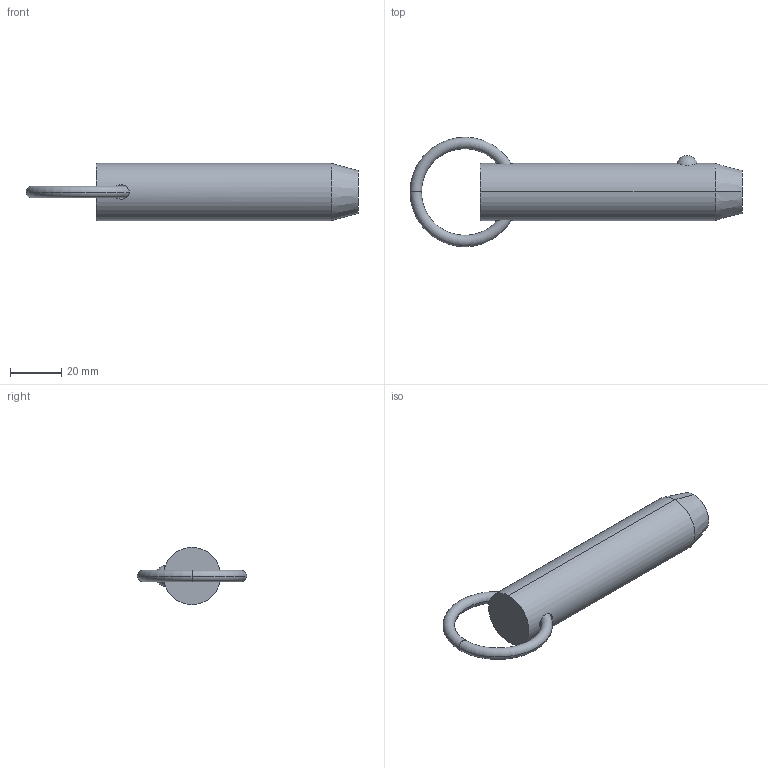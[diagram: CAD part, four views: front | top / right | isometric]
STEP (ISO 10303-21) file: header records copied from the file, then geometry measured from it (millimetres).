
FILE_DESCRIPTION (( 'STEP AP203' ), '1' );
FILE_NAME ('33010.W8825.step', '2024-11-01T10:45:36', ( '' ), ( '' ), 'SwSTEP 2.0', 'SolidWorks 2019', '' );
FILE_SCHEMA (( 'CONFIG_CONTROL_DESIGN' ));
Length unit declared in the file: millimetre
Products named in the file (3): Part1_33010.W8825; 33010.W8825; Part2_33010.W8825
Assembly tree (2 placements, depth 2):
  33010.W8825
    Part1_33010.W8825
    Part2_33010.W8825
Bounding box: 128.96 x 42.55 x 22.23 mm (x, y, z)
Volume: 39901.3 mm3; surface area: 9690.5 mm2
Topology: 2 solids, 2 shells, 16 faces, 31 edges, 18 vertices
Faces by surface type: torus 8, sphere 2, cone 2, cylinder 2, plane 2
Entity records: 903 total; most frequent: CARTESIAN_POINT 260, DIRECTION 88, ORIENTED_EDGE 62, AXIS2_PLACEMENT_3D 42, EDGE_CURVE 31, PERSON_AND_ORGANIZATION 26, CIRCLE 21, EDGE_LOOP 19
